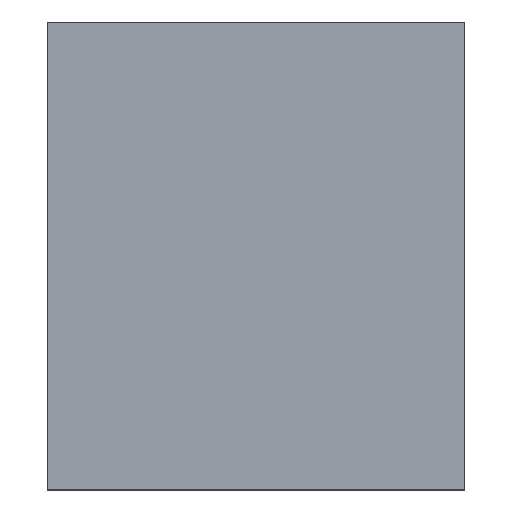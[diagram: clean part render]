
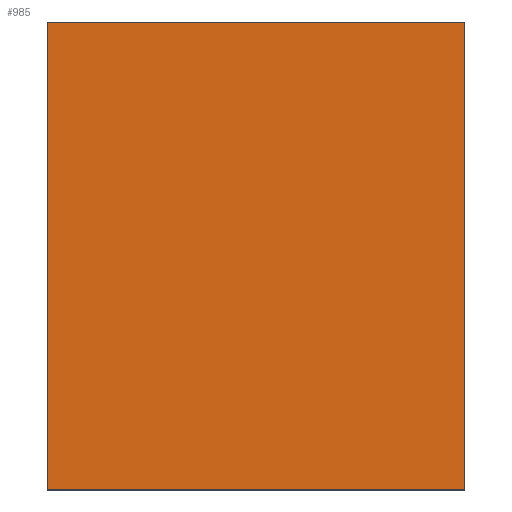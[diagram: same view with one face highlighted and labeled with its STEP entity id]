
A CAD part, top view. The second image highlights one B-rep face of the part: STEP entity #985.
In plain terms, the highlighted planar face has unit normal (0, 0, 1).
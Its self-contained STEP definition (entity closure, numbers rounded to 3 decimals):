
#47=FACE_OUTER_BOUND('',#98,.T.);
#98=EDGE_LOOP('',(#750,#751,#752,#753));
#143=LINE('',#1370,#276);
#215=LINE('',#1513,#348);
#216=LINE('',#1515,#349);
#217=LINE('',#1516,#350);
#276=VECTOR('',#1108,10.);
#348=VECTOR('',#1212,10.);
#349=VECTOR('',#1213,10.);
#350=VECTOR('',#1214,10.);
#409=VERTEX_POINT('',#1367);
#410=VERTEX_POINT('',#1369);
#465=VERTEX_POINT('',#1512);
#466=VERTEX_POINT('',#1514);
#503=EDGE_CURVE('',#410,#409,#143,.T.);
#577=EDGE_CURVE('',#409,#465,#215,.T.);
#578=EDGE_CURVE('',#465,#466,#216,.T.);
#579=EDGE_CURVE('',#466,#410,#217,.T.);
#750=ORIENTED_EDGE('',*,*,#503,.T.);
#751=ORIENTED_EDGE('',*,*,#577,.T.);
#752=ORIENTED_EDGE('',*,*,#578,.T.);
#753=ORIENTED_EDGE('',*,*,#579,.T.);
#939=PLANE('',#1051);
#985=ADVANCED_FACE('',(#47),#939,.T.);
#1051=AXIS2_PLACEMENT_3D('',#1511,#1210,#1211);
#1108=DIRECTION('',(1.,0.,0.));
#1210=DIRECTION('center_axis',(0.,0.,1.));
#1211=DIRECTION('ref_axis',(1.,0.,0.));
#1212=DIRECTION('',(0.,1.,0.));
#1213=DIRECTION('',(-1.,0.,0.));
#1214=DIRECTION('',(0.,-1.,0.));
#1367=CARTESIAN_POINT('',(63.,17.5,29.4));
#1369=CARTESIAN_POINT('',(0.,17.5,29.4));
#1370=CARTESIAN_POINT('',(15.75,17.5,29.4));
#1511=CARTESIAN_POINT('Origin',(31.5,44.,29.4));
#1512=CARTESIAN_POINT('',(63.,88.,29.4));
#1513=CARTESIAN_POINT('',(63.,0.,29.4));
#1514=CARTESIAN_POINT('',(0.,88.,29.4));
#1515=CARTESIAN_POINT('',(63.,88.,29.4));
#1516=CARTESIAN_POINT('',(0.,88.,29.4));
